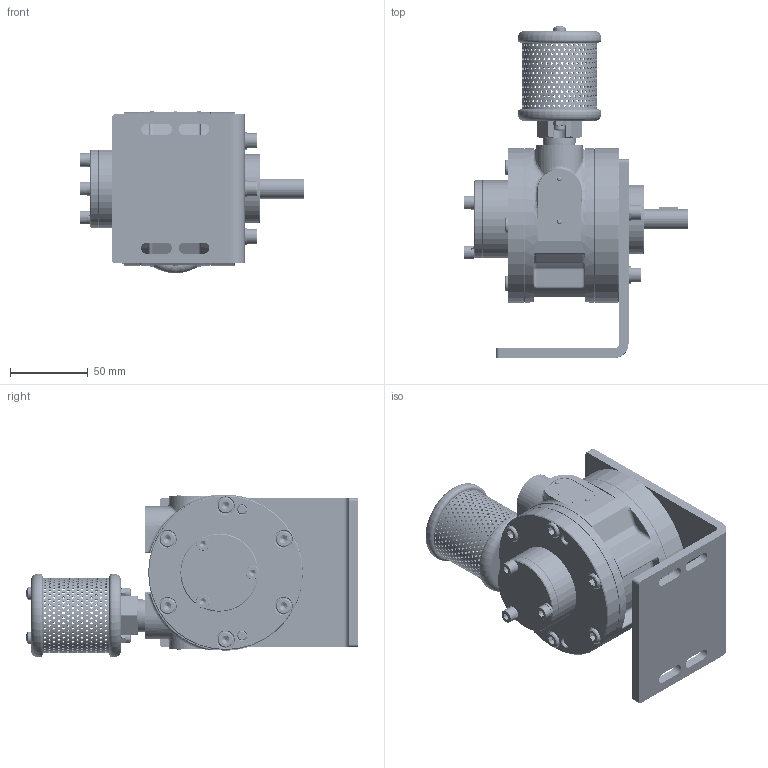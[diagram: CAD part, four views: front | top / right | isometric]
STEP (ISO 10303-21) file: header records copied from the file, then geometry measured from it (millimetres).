
FILE_DESCRIPTION (( 'STEP AP214' ), '1' );
FILE_NAME ('4VMS-SGI (22-04-26).STEP', '2026-04-22T10:29:28', ( '' ), ( '' ), 'SwSTEP 2.0', 'SolidWorks 2017', '' );
FILE_SCHEMA (( 'AUTOMOTIVE_DESIGN' ));
Length unit declared in the file: millimetre
Products named in the file (2): 4VMS-SGI (22-04-26)
Bounding box: 144.05 x 212.85 x 104.25 mm (x, y, z)
Volume: 420974.9 mm3; surface area: 204458.7 mm2
Topology: 53 solids, 53 shells, 3586 faces, 9541 edges, 6013 vertices
Faces by surface type: cylinder 2162, plane 645, cone 536, torus 155, bspline 58, sphere 30
Entity records: 195544 total; most frequent: CARTESIAN_POINT 69753, ORIENTED_EDGE 18862, DIRECTION 15235, EDGE_CURVE 9431, VERTEX_POINT 6005, AXIS2_PLACEMENT_3D 5837, EDGE_LOOP 5266, UNCERTAINTY_MEASURE_WITH_UNIT 3609
